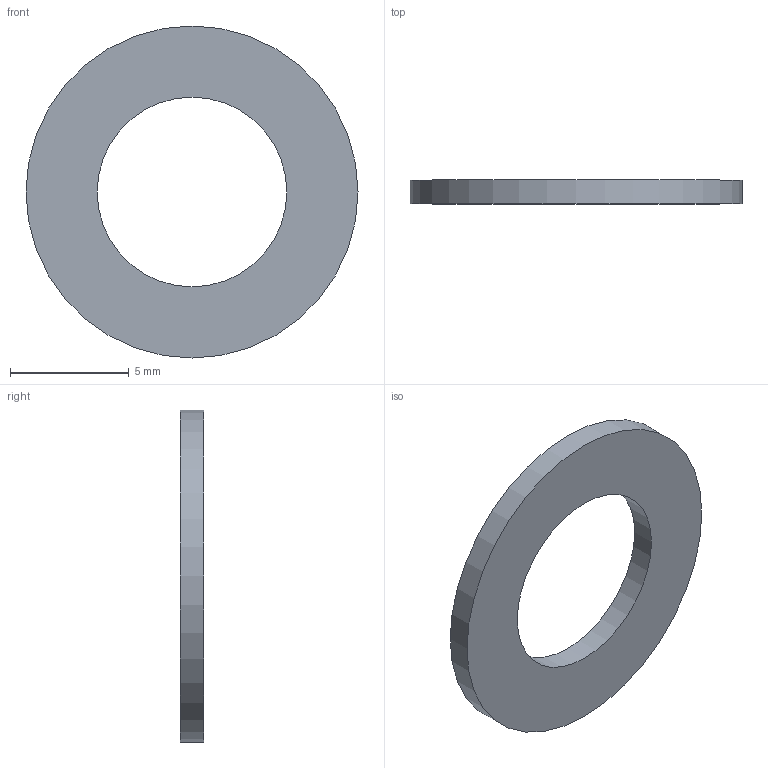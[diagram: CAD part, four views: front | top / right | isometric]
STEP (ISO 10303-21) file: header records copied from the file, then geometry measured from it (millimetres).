
FILE_DESCRIPTION(/* description */ (''),/* implementation_level */ '2;1');
FILE_NAME(/* name */ 'C:\Users\user\Documents\Inventor\Home Ventilator CPAP\rubber seal.stp',/* time_stamp */ '2020-04-03T13:38:41+02:00',/* author */ ('user'),/* organization */ (''),/* preprocessor_version */ 'ST-DEVELOPER v16.5',/* originating_system */ 'Autodesk Inventor 2017',/* authorisation */ '');
FILE_SCHEMA (('AUTOMOTIVE_DESIGN { 1 0 10303 214 3 1 1 }'));
Length unit declared in the file: millimetre
Products named in the file (1): rubber seal
Bounding box: 14 x 1 x 14 mm (x, y, z)
Volume: 103.7 mm3; surface area: 276.5 mm2
Topology: 1 solids, 1 shells, 4 faces, 6 edges, 4 vertices
Faces by surface type: cylinder 2, plane 2
Full cylindrical faces by diameter (mm): 8 x1, 14 x1
Entity records: 118 total; most frequent: DIRECTION 18, CARTESIAN_POINT 13, AXIS2_PLACEMENT_3D 9, EDGE_LOOP 8, ORIENTED_EDGE 8, FACE_BOUND 4, FACE_OUTER_BOUND 4, CIRCLE 4
